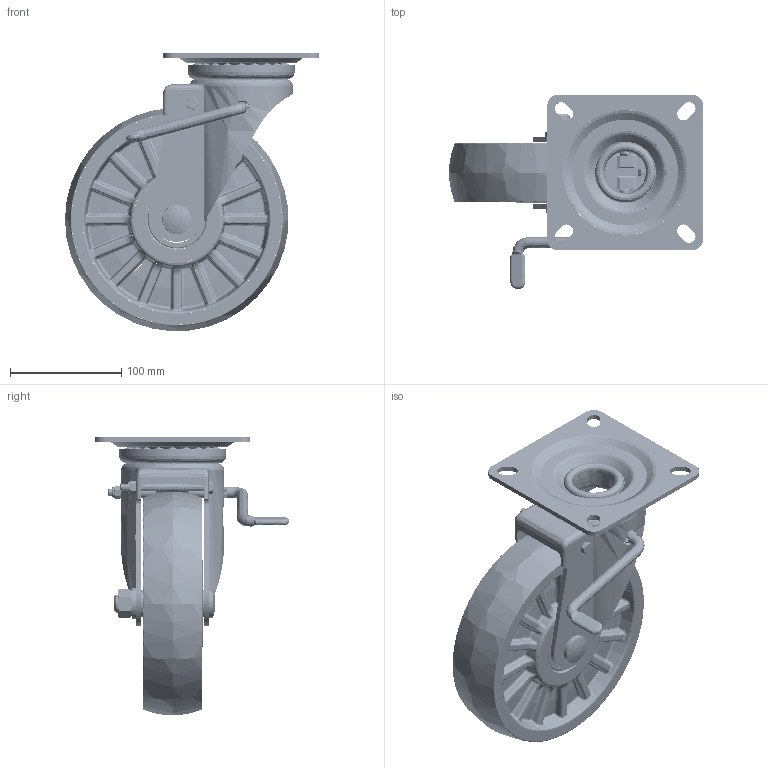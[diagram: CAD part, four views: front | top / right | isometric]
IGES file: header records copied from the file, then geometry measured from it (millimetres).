
Start section: JAMA-IS VERSION  1.0
Global section: file name: C:\CAM-TOOL data\ToolsFile\INOAC車輪\3月\ME-200WJS-ALL.igs; native system: CAM-TOOL; preprocessor: C3out Version 11.1.1.50212 (2015/02/12); author: NONE; organization: NONE; date: 230307.233617; units: millimetre
Bounding box: 228.5 x 175 x 250.39 mm (x, y, z)
Surface area: 320271.4 mm2 (no closed solid volume)
Topology: 0 solids, 0 shells, 2341 faces, 35391 edges, 36538 vertices
Faces by surface type: bspline 2341
